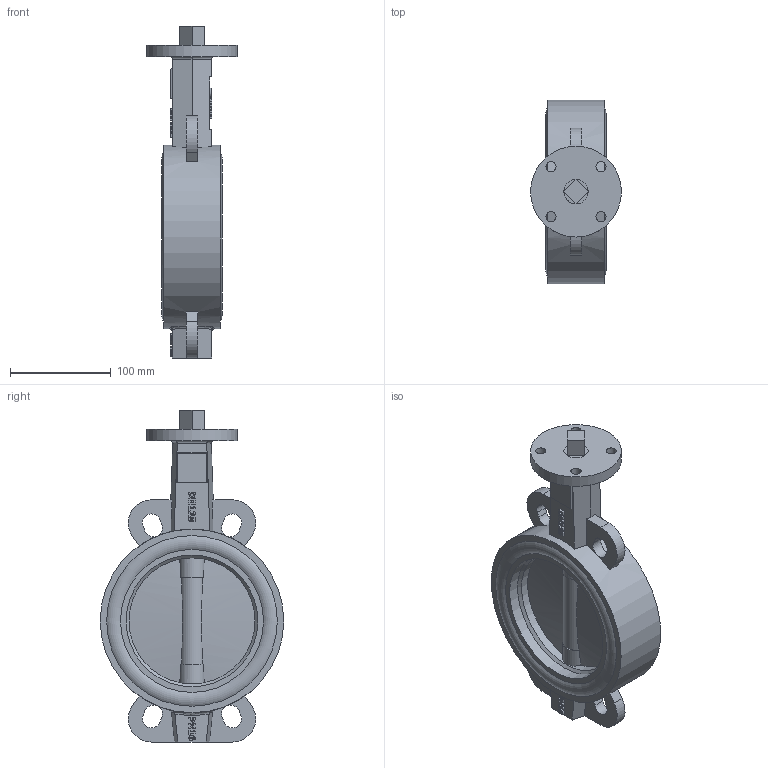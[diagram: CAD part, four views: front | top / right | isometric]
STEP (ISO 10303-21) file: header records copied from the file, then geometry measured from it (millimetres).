
FILE_DESCRIPTION(('STEP AP242'), '1');
FILE_NAME('Ïîâîðîòíûé çàòâîð ïîä ýëåêòðîïðèâîä', '', ('UNSPECIFIED'), ('UNSPECIFIED'), 'C3D Converter', 'C3D Toolkit', '');
FILE_SCHEMA(('AP242_MANAGED_MODEL_BASED_3D_ENGINEERING_MIM_LF { 1 0 10303 442 1 1 4 }'));
Length unit declared in the file: millimetre
Products named in the file (6): П
Assembly tree (6 placements, depth 2):
  (unnamed)
    (unnamed)
    П  x2
    (unnamed)
    (unnamed)
    (unnamed)
Bounding box: 90 x 182 x 329 mm (x, y, z)
Volume: 1237225.7 mm3; surface area: 286858.2 mm2
Topology: 6 solids, 6 shells, 409 faces, 1092 edges, 718 vertices
Faces by surface type: plane 205, extrusion 131, cylinder 57, bspline 4, torus 4, cone 4, sphere 4
Full cylindrical faces by diameter (mm): 9.137 x1, 10 x4, 17 x6, 24.042 x5, 26.41 x4, 90 x1, 125 x1, 130.56 x2, 141.68 x2, 155.353 x4, 169.027 x4, 182 x1
Entity records: 17423 total; most frequent: CARTESIAN_POINT 5636, ORIENTED_EDGE 2084, DIRECTION 1542, EDGE_CURVE 1042, VERTEX_POINT 713, VECTOR 706, LINE 575, EDGE_LOOP 501
